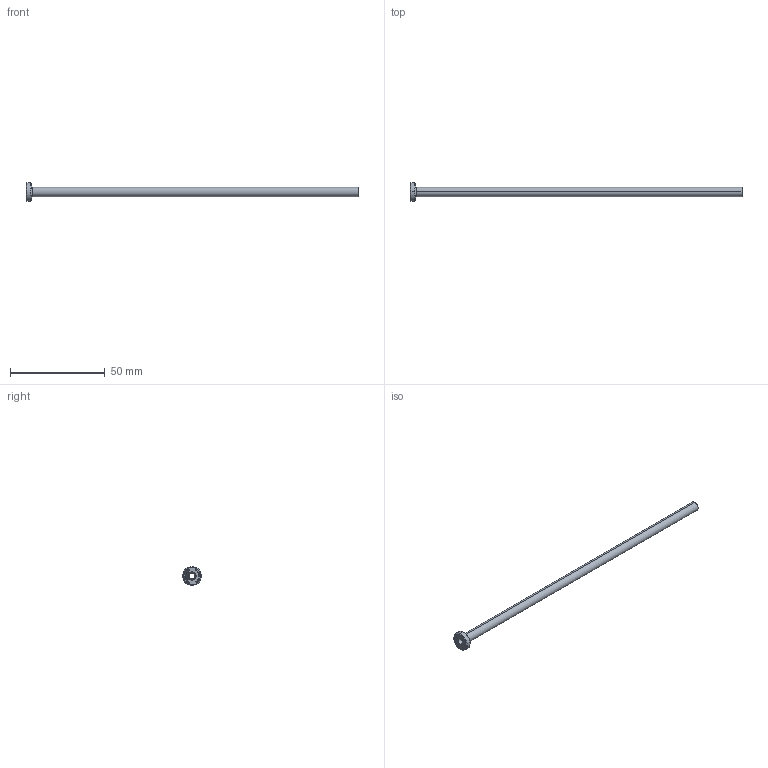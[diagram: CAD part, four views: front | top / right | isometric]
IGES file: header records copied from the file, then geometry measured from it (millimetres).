
Start section: SolidWorks IGES file using analytic representation for surfaces
Global section: file name: D:\TRIVECTOR\2026\08_Agosto\BE - BUCHA EXTRATORA (CATÁLOGO)\BE03,005175.IGS; native system: SolidWorks 2024; preprocessor: SolidWorks 2024; author: Usuario; date: 260824.151326; units: millimetre
Bounding box: 175 x 10 x 10 mm (x, y, z)
Surface area: 4702.2 mm2 (no closed solid volume)
Topology: 0 solids, 0 shells, 433 faces, 4219 edges, 4219 vertices
Faces by surface type: bspline 408, revolution 25
